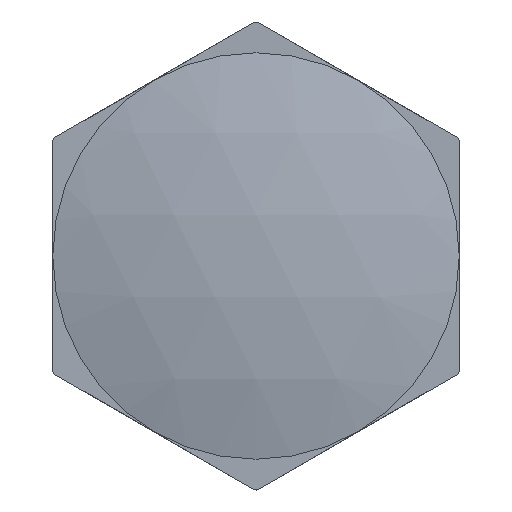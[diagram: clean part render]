
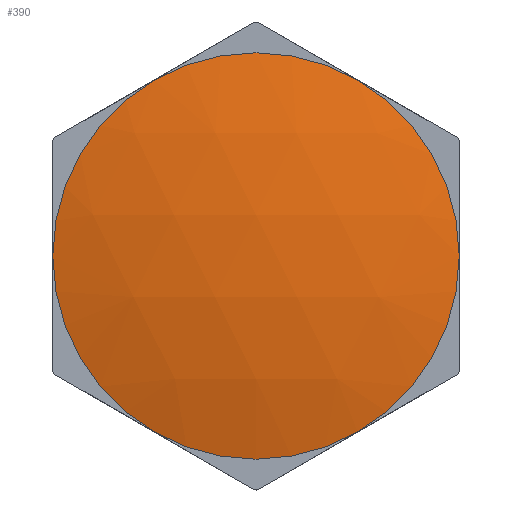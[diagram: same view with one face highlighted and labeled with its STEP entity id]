
A CAD part, left-side view. The second image highlights one B-rep face of the part: STEP entity #390.
In plain terms, the highlighted spherical face has radius 57.25 mm.
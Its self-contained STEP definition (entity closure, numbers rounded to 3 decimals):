
#16=SPHERICAL_SURFACE('',#438,57.25);
#58=FACE_OUTER_BOUND('',#86,.T.);
#86=EDGE_LOOP('',(#353,#354,#355,#356,#357,#358));
#156=CIRCLE('',#408,15.);
#159=CIRCLE('',#415,15.);
#161=CIRCLE('',#419,15.);
#163=CIRCLE('',#424,15.);
#164=CIRCLE('',#426,15.);
#165=CIRCLE('',#428,15.);
#175=VERTEX_POINT('',#578);
#188=VERTEX_POINT('',#610);
#190=VERTEX_POINT('',#616);
#192=VERTEX_POINT('',#624);
#195=VERTEX_POINT('',#634);
#198=VERTEX_POINT('',#645);
#229=EDGE_CURVE('',#188,#190,#156,.T.);
#237=EDGE_CURVE('',#195,#192,#159,.T.);
#243=EDGE_CURVE('',#198,#195,#161,.T.);
#248=EDGE_CURVE('',#175,#198,#163,.T.);
#249=EDGE_CURVE('',#190,#175,#164,.T.);
#251=EDGE_CURVE('',#192,#188,#165,.T.);
#353=ORIENTED_EDGE('',*,*,#251,.T.);
#354=ORIENTED_EDGE('',*,*,#229,.T.);
#355=ORIENTED_EDGE('',*,*,#249,.T.);
#356=ORIENTED_EDGE('',*,*,#248,.T.);
#357=ORIENTED_EDGE('',*,*,#243,.T.);
#358=ORIENTED_EDGE('',*,*,#237,.T.);
#390=ADVANCED_FACE('',(#58),#16,.T.);
#408=AXIS2_PLACEMENT_3D('',#618,#488,#489);
#415=AXIS2_PLACEMENT_3D('',#635,#507,#508);
#419=AXIS2_PLACEMENT_3D('',#646,#519,#520);
#424=AXIS2_PLACEMENT_3D('',#655,#532,#533);
#426=AXIS2_PLACEMENT_3D('',#657,#536,#537);
#428=AXIS2_PLACEMENT_3D('',#660,#541,#542);
#438=AXIS2_PLACEMENT_3D('',#673,#561,#562);
#488=DIRECTION('center_axis',(-1.,0.,0.));
#489=DIRECTION('ref_axis',(0.,0.,1.));
#507=DIRECTION('center_axis',(-1.,0.,0.));
#508=DIRECTION('ref_axis',(0.,0.,1.));
#519=DIRECTION('center_axis',(-1.,0.,0.));
#520=DIRECTION('ref_axis',(0.,0.,1.));
#532=DIRECTION('center_axis',(-1.,0.,0.));
#533=DIRECTION('ref_axis',(0.,0.,1.));
#536=DIRECTION('center_axis',(-1.,0.,0.));
#537=DIRECTION('ref_axis',(0.,0.,1.));
#541=DIRECTION('center_axis',(-1.,0.,0.));
#542=DIRECTION('ref_axis',(0.,0.,1.));
#561=DIRECTION('center_axis',(0.,0.,1.));
#562=DIRECTION('ref_axis',(1.,0.,0.));
#578=CARTESIAN_POINT('',(2.,15.,0.));
#610=CARTESIAN_POINT('',(2.,-7.5,12.99));
#616=CARTESIAN_POINT('',(2.,7.5,12.99));
#618=CARTESIAN_POINT('Origin',(2.,0.,0.));
#624=CARTESIAN_POINT('',(2.,-15.,0.));
#634=CARTESIAN_POINT('',(2.,-7.5,-12.99));
#635=CARTESIAN_POINT('Origin',(2.,0.,0.));
#645=CARTESIAN_POINT('',(2.,7.5,-12.99));
#646=CARTESIAN_POINT('Origin',(2.,0.,0.));
#655=CARTESIAN_POINT('Origin',(2.,0.,0.));
#657=CARTESIAN_POINT('Origin',(2.,0.,0.));
#660=CARTESIAN_POINT('Origin',(2.,0.,0.));
#673=CARTESIAN_POINT('Origin',(57.25,0.,0.));
